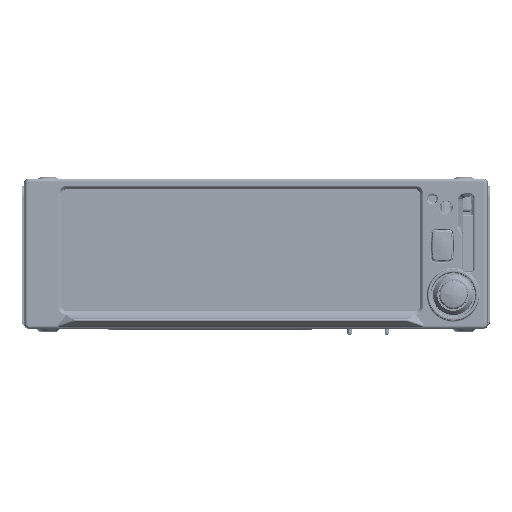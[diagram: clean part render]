
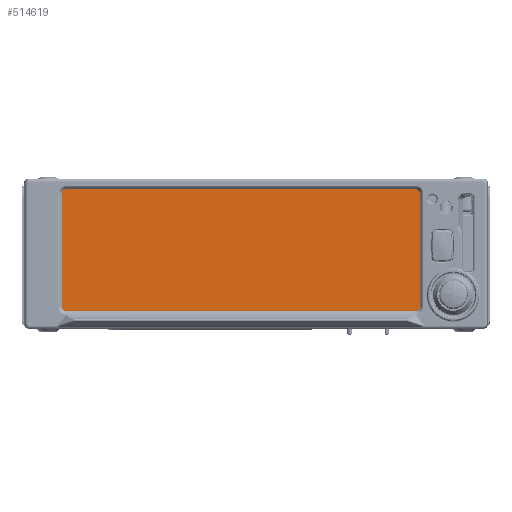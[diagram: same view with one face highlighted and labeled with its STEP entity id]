
A CAD part, top view. The second image highlights one B-rep face of the part: STEP entity #514619.
In plain terms, the highlighted planar face has unit normal (0, 0, 1).
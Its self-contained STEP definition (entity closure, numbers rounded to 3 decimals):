
#1767 = CARTESIAN_POINT ( 'NONE',  ( -46.624, 46.624, 3.168 ) ) ;
#7830 = DIRECTION ( 'NONE',  ( 0.707, -0.707, 0. ) ) ;
#23441 = EDGE_CURVE ( 'NONE', #486030, #103915, #402898, .T. ) ;
#52348 = LINE ( 'NONE', #1767, #77831 ) ;
#70791 = EDGE_CURVE ( 'NONE', #336194, #220216, #409304, .T. ) ;
#77831 = VECTOR ( 'NONE', #371942, 1000. ) ;
#78984 = LINE ( 'NONE', #340203, #91913 ) ;
#79340 = DIRECTION ( 'NONE',  ( 1., 0., 0. ) ) ;
#81703 = DIRECTION ( 'NONE',  ( 1., 0., 0. ) ) ;
#88229 = LINE ( 'NONE', #111277, #417889 ) ;
#91913 = VECTOR ( 'NONE', #134321, 1000. ) ;
#92606 = ORIENTED_EDGE ( 'NONE', *, *, #451856, .T. ) ;
#100704 = EDGE_CURVE ( 'NONE', #103915, #350682, #52348, .T. ) ;
#103260 = CARTESIAN_POINT ( 'NONE',  ( -72.138, -22.459, 3.168 ) ) ;
#103915 = VERTEX_POINT ( 'NONE', #507930 ) ;
#111277 = CARTESIAN_POINT ( 'NONE',  ( 42.255, 42.255, 3.168 ) ) ;
#117333 = CARTESIAN_POINT ( 'NONE',  ( 63.401, 23.609, 3.168 ) ) ;
#121521 = PLANE ( 'NONE',  #490886 ) ;
#122130 = DIRECTION ( 'NONE',  ( -1., 0., 0. ) ) ;
#122935 = ORIENTED_EDGE ( 'NONE', *, *, #23441, .T. ) ;
#130650 = ORIENTED_EDGE ( 'NONE', *, *, #526217, .T. ) ;
#132289 = ORIENTED_EDGE ( 'NONE', *, *, #367681, .T. ) ;
#134321 = DIRECTION ( 'NONE',  ( 0.707, 0.707, 0. ) ) ;
#168629 = ORIENTED_EDGE ( 'NONE', *, *, #100704, .T. ) ;
#177176 = EDGE_CURVE ( 'NONE', #220216, #486030, #88229, .T. ) ;
#180959 = VECTOR ( 'NONE', #414383, 1000. ) ;
#185914 = VECTOR ( 'NONE', #79340, 1000. ) ;
#188978 = DIRECTION ( 'NONE',  ( -0.707, 0.707, 0. ) ) ;
#200304 = CARTESIAN_POINT ( 'NONE',  ( -72.138, -24.959, 3.168 ) ) ;
#208965 = ORIENTED_EDGE ( 'NONE', *, *, #70791, .T. ) ;
#214702 = LINE ( 'NONE', #421338, #337612 ) ;
#220216 = VERTEX_POINT ( 'NONE', #501463 ) ;
#224244 = VERTEX_POINT ( 'NONE', #103260 ) ;
#230231 = CARTESIAN_POINT ( 'NONE',  ( 60.9, -24.959, 3.168 ) ) ;
#232781 = CARTESIAN_POINT ( 'NONE',  ( -72.138, 21.109, 3.168 ) ) ;
#265091 = CARTESIAN_POINT ( 'NONE',  ( -69.638, -24.959, 3.168 ) ) ;
#266714 = ORIENTED_EDGE ( 'NONE', *, *, #322849, .T. ) ;
#267783 = FACE_OUTER_BOUND ( 'NONE', #419097, .T. ) ;
#278126 = DIRECTION ( 'NONE',  ( 0., 1., 0. ) ) ;
#289441 = VERTEX_POINT ( 'NONE', #230231 ) ;
#292815 = VECTOR ( 'NONE', #122130, 1000. ) ;
#293892 = CARTESIAN_POINT ( 'NONE',  ( -72.138, 23.609, 3.168 ) ) ;
#301937 = LINE ( 'NONE', #200304, #185914 ) ;
#312367 = VECTOR ( 'NONE', #278126, 1000. ) ;
#322849 = EDGE_CURVE ( 'NONE', #350682, #224244, #407538, .T. ) ;
#336194 = VERTEX_POINT ( 'NONE', #340035 ) ;
#337612 = VECTOR ( 'NONE', #7830, 1000. ) ;
#340035 = CARTESIAN_POINT ( 'NONE',  ( 63.401, -22.459, 3.168 ) ) ;
#340203 = CARTESIAN_POINT ( 'NONE',  ( 42.93, -42.93, 3.168 ) ) ;
#350682 = VERTEX_POINT ( 'NONE', #232781 ) ;
#353968 = CARTESIAN_POINT ( 'NONE',  ( 60.901, 23.609, 3.168 ) ) ;
#367681 = EDGE_CURVE ( 'NONE', #388505, #289441, #301937, .T. ) ;
#368933 = DIRECTION ( 'NONE',  ( 0., 0., 1. ) ) ;
#371942 = DIRECTION ( 'NONE',  ( -0.707, -0.707, 0. ) ) ;
#372420 = CARTESIAN_POINT ( 'NONE',  ( 0., 0., 3.168 ) ) ;
#388505 = VERTEX_POINT ( 'NONE', #265091 ) ;
#402898 = LINE ( 'NONE', #412847, #292815 ) ;
#407538 = LINE ( 'NONE', #293892, #180959 ) ;
#409304 = LINE ( 'NONE', #117333, #312367 ) ;
#412847 = CARTESIAN_POINT ( 'NONE',  ( -72.138, 23.609, 3.168 ) ) ;
#414383 = DIRECTION ( 'NONE',  ( 0., -1., 0. ) ) ;
#417889 = VECTOR ( 'NONE', #188978, 1000. ) ;
#419097 = EDGE_LOOP ( 'NONE', ( #208965, #450376, #122935, #168629, #266714, #130650, #132289, #92606 ) ) ;
#421338 = CARTESIAN_POINT ( 'NONE',  ( -47.299, -47.299, 3.168 ) ) ;
#450376 = ORIENTED_EDGE ( 'NONE', *, *, #177176, .T. ) ;
#451856 = EDGE_CURVE ( 'NONE', #289441, #336194, #78984, .T. ) ;
#486030 = VERTEX_POINT ( 'NONE', #353968 ) ;
#490886 = AXIS2_PLACEMENT_3D ( 'NONE', #372420, #368933, #81703 ) ;
#501463 = CARTESIAN_POINT ( 'NONE',  ( 63.401, 21.109, 3.168 ) ) ;
#507930 = CARTESIAN_POINT ( 'NONE',  ( -69.638, 23.609, 3.168 ) ) ;
#514619 = ADVANCED_FACE ( 'NONE', ( #267783 ), #121521, .T. ) ;
#526217 = EDGE_CURVE ( 'NONE', #224244, #388505, #214702, .T. ) ;
